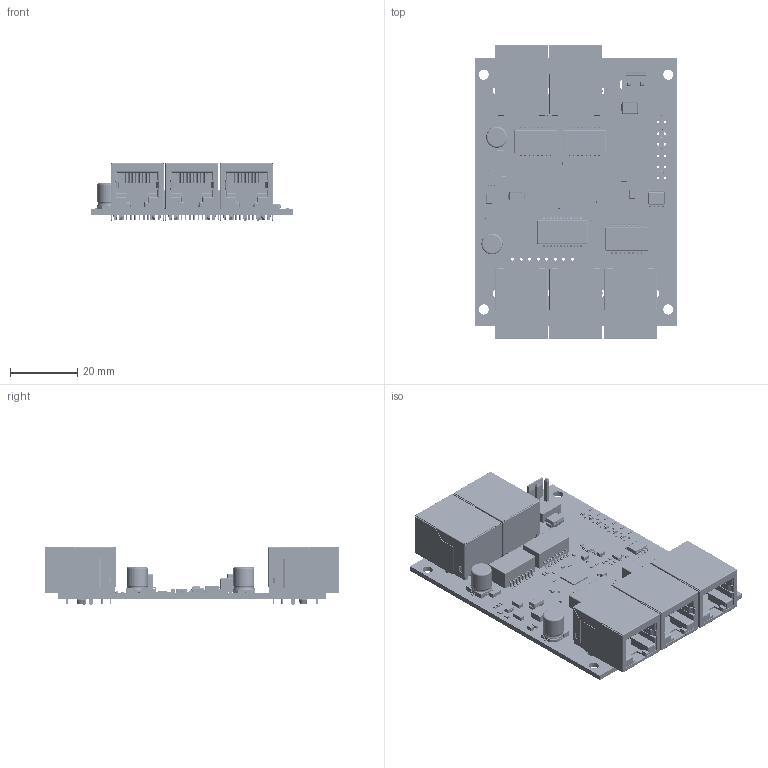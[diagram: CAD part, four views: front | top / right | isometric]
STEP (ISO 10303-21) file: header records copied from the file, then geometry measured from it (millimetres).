
FILE_DESCRIPTION((''),'2;1');
FILE_NAME('LX-SWF505-ALL-01_ASM','2025-04-18T',('Administrator'),(''),'PRO/ENGINEER BY PARAMETRIC TECHNOLOGY CORPORATION, 2015240','PRO/ENGINEER BY PARAMETRIC TECHNOLOGY CORPORATION, 2015240','');
FILE_SCHEMA(('CONFIG_CONTROL_DESIGN'));
Products named in the file (324): BOARD_IKIZ; TOPCOPPER_IKIZ; BOTTOMCOPPER_IKIZ; TOPFPCSTIFFENER_IKIZ; BOTTOMFPCSTIFFENER_IKIZ; 0805_C0805_L2_0-W1_3-H1_3_IKIZ; C55_0805_C0805_L2_0-W1_3-H1_3_I_ASM; C6_0805_C0805_L2_0-W1_3-H1_3_IK_ASM; C19_0805_C0805_L2_0-W1_3-H1_3_I_ASM; C29_C0805_C0805_L2_0-W1_3-H1_3__ASM; C12_0805_C0805_L2_0-W1_3-H1_3_I_ASM; C0402_C0402_IKIZ; C40_C0402_C0402_IKIZ_ASM; C23_C0402_C0402_IKIZ_ASM; C3_C0402_C0402_IKIZ_ASM; C4_C0402_C0402_IKIZ_ASM; C2_C0402_C0402_IKIZ_ASM; C21_C0402_C0402_IKIZ_ASM; C20_C0402_C0402_IKIZ_ASM; C22_C0402_C0402_IKIZ_ASM; C25_C0402_C0402_IKIZ_ASM; 0402_C0402_IKIZ; C1_0402_C0402_IKIZ_ASM; C7_0402_C0402_IKIZ_ASM; C8_0402_C0402_IKIZ_ASM; C9_0402_C0402_IKIZ_ASM; C10_0402_C0402_IKIZ_ASM; C11_0402_C0402_IKIZ_ASM; C13_0402_C0402_IKIZ_ASM; C14_0402_C0402_IKIZ_ASM; C15_0402_C0402_IKIZ_ASM; C16_0402_C0402_IKIZ_ASM; C17_0402_C0402_IKIZ_ASM; C18_0402_C0402_IKIZ_ASM; C26_0402_C0402_IKIZ_ASM; C37_0402_C0402_IKIZ_ASM; C5_C0402_C0402_IKIZ_ASM; MANIFOLD_SOLID_BREP_50849; MANIFOLD_SOLID_BREP_51791; MANIFOLD_SOLID_BREP_52037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
Assembly tree (383 placements, depth 6):
  LX-SWF505-ALL-01_ASM
    LX-SWF505_ASM
      EASYEDA_PCB_MODEL_IKIZ_ASM
        BOARD_IKIZ
        TOPCOPPER_IKIZ
        BOTTOMCOPPER_IKIZ
        TOPFPCSTIFFENER_IKIZ
        BOTTOMFPCSTIFFENER_IKIZ
        C55_0805_C0805_L2_0-W1_3-H1_3_I_ASM
          0805_C0805_L2_0-W1_3-H1_3_IKIZ
        C6_0805_C0805_L2_0-W1_3-H1_3_IK_ASM
          0805_C0805_L2_0-W1_3-H1_3_IKIZ
        C19_0805_C0805_L2_0-W1_3-H1_3_I_ASM
          0805_C0805_L2_0-W1_3-H1_3_IKIZ
        C29_C0805_C0805_L2_0-W1_3-H1_3__ASM
          0805_C0805_L2_0-W1_3-H1_3_IKIZ
        C12_0805_C0805_L2_0-W1_3-H1_3_I_ASM
          0805_C0805_L2_0-W1_3-H1_3_IKIZ
        C40_C0402_C0402_IKIZ_ASM
          C0402_C0402_IKIZ
        C23_C0402_C0402_IKIZ_ASM
          C0402_C0402_IKIZ
        C3_C0402_C0402_IKIZ_ASM
          C0402_C0402_IKIZ
        C4_C0402_C0402_IKIZ_ASM
          C0402_C0402_IKIZ
        C2_C0402_C0402_IKIZ_ASM
          C0402_C0402_IKIZ
        C21_C0402_C0402_IKIZ_ASM
          C0402_C0402_IKIZ
        C20_C0402_C0402_IKIZ_ASM
          C0402_C0402_IKIZ
        C22_C0402_C0402_IKIZ_ASM
          C0402_C0402_IKIZ
        C25_C0402_C0402_IKIZ_ASM
          C0402_C0402_IKIZ
        C1_0402_C0402_IKIZ_ASM
          0402_C0402_IKIZ
        C7_0402_C0402_IKIZ_ASM
          0402_C0402_IKIZ
        C8_0402_C0402_IKIZ_ASM
          0402_C0402_IKIZ
        C9_0402_C0402_IKIZ_ASM
          0402_C0402_IKIZ
        C10_0402_C0402_IKIZ_ASM
          0402_C0402_IKIZ
        C11_0402_C0402_IKIZ_ASM
          0402_C0402_IKIZ
        C13_0402_C0402_IKIZ_ASM
          0402_C0402_IKIZ
        C14_0402_C0402_IKIZ_ASM
          0402_C0402_IKIZ
        C15_0402_C0402_IKIZ_ASM
          0402_C0402_IKIZ
        C16_0402_C0402_IKIZ_ASM
          0402_C0402_IKIZ
        C17_0402_C0402_IKIZ_ASM
          0402_C0402_IKIZ
        C18_0402_C0402_IKIZ_ASM
          0402_C0402_IKIZ
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Bounding box: 59.97 x 87.7 x 17.3 mm (x, y, z)
Volume: 23139.9 mm3; surface area: 47308.4 mm2
Topology: 352 solids, 352 shells, 30931 faces, 84336 edges, 55283 vertices
Faces by surface type: plane 18830, extrusion 7487, cylinder 4090, sphere 392, torus 70, cone 42, bspline 20
Entity records: 346613 total; most frequent: CARTESIAN_POINT 93618, ORIENTED_EDGE 54294, DIRECTION 44406, EDGE_CURVE 27147, VECTOR 21048, LINE 18865, VERTEX_POINT 18119, AXIS2_PLACEMENT_3D 11679
